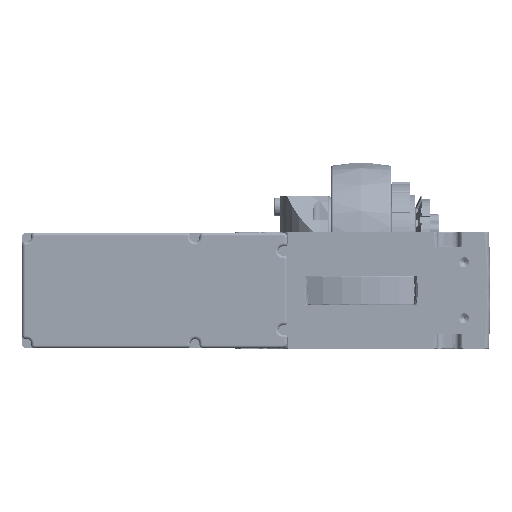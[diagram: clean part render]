
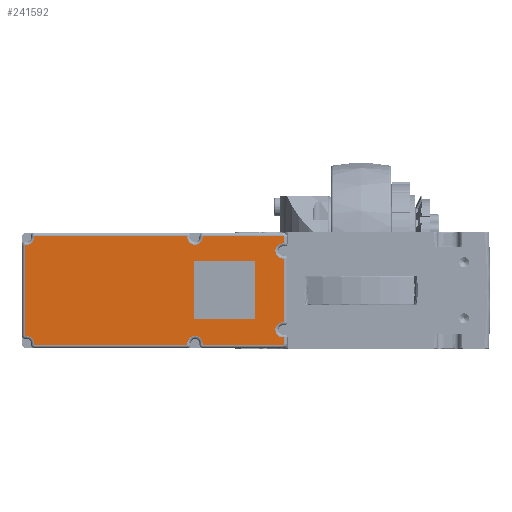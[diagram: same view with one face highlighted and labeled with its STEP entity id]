
A CAD part, front view. The second image highlights one B-rep face of the part: STEP entity #241592.
In plain terms, the highlighted planar face has unit normal (0, -1, 0) as drawn and (0, 0, 1) by its records, which use the part's own axes.
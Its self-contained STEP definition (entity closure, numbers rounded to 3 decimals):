
#11151=PLANE('',#264502);
#12166=FACE_BOUND('',#40531,.T.);
#25814=FACE_OUTER_BOUND('',#40530,.T.);
#40530=EDGE_LOOP('',(#212099,#212100,#212101,#212102,#212103,#212104,#212105,
#212106,#212107,#212108,#212109,#212110,#212111,#212112,#212113,#212114,
#212115,#212116,#212117,#212118,#212119,#212120,#212121,#212122,#212123,
#212124,#212125,#212126));
#40531=EDGE_LOOP('',(#212127,#212128,#212129,#212130));
#58939=CIRCLE('',#264503,5.);
#58940=CIRCLE('',#264504,1.);
#58941=CIRCLE('',#264505,5.);
#58942=CIRCLE('',#264506,5.);
#58943=CIRCLE('',#264507,1.);
#58944=CIRCLE('',#264508,5.);
#58945=CIRCLE('',#264509,5.);
#58946=CIRCLE('',#264510,5.);
#74270=LINE('',#637488,#89629);
#74274=LINE('',#637496,#89633);
#74277=LINE('',#637502,#89636);
#74280=LINE('',#637507,#89639);
#74282=LINE('',#637513,#89641);
#74283=LINE('',#637515,#89642);
#74284=LINE('',#637517,#89643);
#74285=LINE('',#637521,#89644);
#74286=LINE('',#637523,#89645);
#74287=LINE('',#637527,#89646);
#74288=LINE('',#637529,#89647);
#74289=LINE('',#637533,#89648);
#74290=LINE('',#637535,#89649);
#74291=LINE('',#637537,#89650);
#74292=LINE('',#637541,#89651);
#74293=LINE('',#637543,#89652);
#74294=LINE('',#637547,#89653);
#74295=LINE('',#637549,#89654);
#74296=LINE('',#637553,#89655);
#74297=LINE('',#637555,#89656);
#74298=LINE('',#637557,#89657);
#74299=LINE('',#637561,#89658);
#74300=LINE('',#637563,#89659);
#74301=LINE('',#637565,#89660);
#89629=VECTOR('',#324129,10.);
#89633=VECTOR('',#324135,10.);
#89636=VECTOR('',#324140,10.);
#89639=VECTOR('',#324145,10.);
#89641=VECTOR('',#324151,10.);
#89642=VECTOR('',#324152,10.);
#89643=VECTOR('',#324153,10.);
#89644=VECTOR('',#324156,10.);
#89645=VECTOR('',#324157,10.);
#89646=VECTOR('',#324160,10.);
#89647=VECTOR('',#324161,10.);
#89648=VECTOR('',#324164,10.);
#89649=VECTOR('',#324165,10.);
#89650=VECTOR('',#324166,10.);
#89651=VECTOR('',#324169,10.);
#89652=VECTOR('',#324170,10.);
#89653=VECTOR('',#324173,10.);
#89654=VECTOR('',#324174,10.);
#89655=VECTOR('',#324177,10.);
#89656=VECTOR('',#324178,10.);
#89657=VECTOR('',#324179,10.);
#89658=VECTOR('',#324182,10.);
#89659=VECTOR('',#324183,10.);
#89660=VECTOR('',#324184,10.);
#110649=VERTEX_POINT('',#637486);
#110650=VERTEX_POINT('',#637487);
#110653=VERTEX_POINT('',#637495);
#110655=VERTEX_POINT('',#637501);
#110657=VERTEX_POINT('',#637511);
#110658=VERTEX_POINT('',#637512);
#110659=VERTEX_POINT('',#637514);
#110660=VERTEX_POINT('',#637516);
#110661=VERTEX_POINT('',#637518);
#110662=VERTEX_POINT('',#637520);
#110663=VERTEX_POINT('',#637522);
#110664=VERTEX_POINT('',#637524);
#110665=VERTEX_POINT('',#637526);
#110666=VERTEX_POINT('',#637528);
#110667=VERTEX_POINT('',#637530);
#110668=VERTEX_POINT('',#637532);
#110669=VERTEX_POINT('',#637534);
#110670=VERTEX_POINT('',#637536);
#110671=VERTEX_POINT('',#637538);
#110672=VERTEX_POINT('',#637540);
#110673=VERTEX_POINT('',#637542);
#110674=VERTEX_POINT('',#637544);
#110675=VERTEX_POINT('',#637546);
#110676=VERTEX_POINT('',#637548);
#110677=VERTEX_POINT('',#637550);
#110678=VERTEX_POINT('',#637552);
#110679=VERTEX_POINT('',#637554);
#110680=VERTEX_POINT('',#637556);
#110681=VERTEX_POINT('',#637558);
#110682=VERTEX_POINT('',#637560);
#110683=VERTEX_POINT('',#637562);
#110684=VERTEX_POINT('',#637564);
#144478=EDGE_CURVE('',#110649,#110650,#74270,.T.);
#144482=EDGE_CURVE('',#110653,#110649,#74274,.T.);
#144485=EDGE_CURVE('',#110655,#110653,#74277,.T.);
#144488=EDGE_CURVE('',#110650,#110655,#74280,.T.);
#144490=EDGE_CURVE('',#110657,#110658,#74282,.T.);
#144491=EDGE_CURVE('',#110659,#110657,#74283,.T.);
#144492=EDGE_CURVE('',#110660,#110659,#74284,.T.);
#144493=EDGE_CURVE('',#110661,#110660,#58939,.T.);
#144494=EDGE_CURVE('',#110662,#110661,#74285,.T.);
#144495=EDGE_CURVE('',#110663,#110662,#74286,.T.);
#144496=EDGE_CURVE('',#110664,#110663,#58940,.T.);
#144497=EDGE_CURVE('',#110665,#110664,#74287,.T.);
#144498=EDGE_CURVE('',#110666,#110665,#74288,.T.);
#144499=EDGE_CURVE('',#110667,#110666,#58941,.T.);
#144500=EDGE_CURVE('',#110668,#110667,#74289,.T.);
#144501=EDGE_CURVE('',#110669,#110668,#74290,.T.);
#144502=EDGE_CURVE('',#110670,#110669,#74291,.T.);
#144503=EDGE_CURVE('',#110671,#110670,#58942,.T.);
#144504=EDGE_CURVE('',#110672,#110671,#74292,.T.);
#144505=EDGE_CURVE('',#110673,#110672,#74293,.T.);
#144506=EDGE_CURVE('',#110674,#110673,#58943,.T.);
#144507=EDGE_CURVE('',#110675,#110674,#74294,.T.);
#144508=EDGE_CURVE('',#110676,#110675,#74295,.T.);
#144509=EDGE_CURVE('',#110677,#110676,#58944,.T.);
#144510=EDGE_CURVE('',#110678,#110677,#74296,.T.);
#144511=EDGE_CURVE('',#110679,#110678,#74297,.T.);
#144512=EDGE_CURVE('',#110680,#110679,#74298,.T.);
#144513=EDGE_CURVE('',#110681,#110680,#58945,.T.);
#144514=EDGE_CURVE('',#110682,#110681,#74299,.T.);
#144515=EDGE_CURVE('',#110683,#110682,#74300,.T.);
#144516=EDGE_CURVE('',#110684,#110683,#74301,.T.);
#144517=EDGE_CURVE('',#110658,#110684,#58946,.T.);
#212099=ORIENTED_EDGE('',*,*,#144490,.F.);
#212100=ORIENTED_EDGE('',*,*,#144491,.F.);
#212101=ORIENTED_EDGE('',*,*,#144492,.F.);
#212102=ORIENTED_EDGE('',*,*,#144493,.F.);
#212103=ORIENTED_EDGE('',*,*,#144494,.F.);
#212104=ORIENTED_EDGE('',*,*,#144495,.F.);
#212105=ORIENTED_EDGE('',*,*,#144496,.F.);
#212106=ORIENTED_EDGE('',*,*,#144497,.F.);
#212107=ORIENTED_EDGE('',*,*,#144498,.F.);
#212108=ORIENTED_EDGE('',*,*,#144499,.F.);
#212109=ORIENTED_EDGE('',*,*,#144500,.F.);
#212110=ORIENTED_EDGE('',*,*,#144501,.F.);
#212111=ORIENTED_EDGE('',*,*,#144502,.F.);
#212112=ORIENTED_EDGE('',*,*,#144503,.F.);
#212113=ORIENTED_EDGE('',*,*,#144504,.F.);
#212114=ORIENTED_EDGE('',*,*,#144505,.F.);
#212115=ORIENTED_EDGE('',*,*,#144506,.F.);
#212116=ORIENTED_EDGE('',*,*,#144507,.F.);
#212117=ORIENTED_EDGE('',*,*,#144508,.F.);
#212118=ORIENTED_EDGE('',*,*,#144509,.F.);
#212119=ORIENTED_EDGE('',*,*,#144510,.F.);
#212120=ORIENTED_EDGE('',*,*,#144511,.F.);
#212121=ORIENTED_EDGE('',*,*,#144512,.F.);
#212122=ORIENTED_EDGE('',*,*,#144513,.F.);
#212123=ORIENTED_EDGE('',*,*,#144514,.F.);
#212124=ORIENTED_EDGE('',*,*,#144515,.F.);
#212125=ORIENTED_EDGE('',*,*,#144516,.F.);
#212126=ORIENTED_EDGE('',*,*,#144517,.F.);
#212127=ORIENTED_EDGE('',*,*,#144478,.T.);
#212128=ORIENTED_EDGE('',*,*,#144488,.T.);
#212129=ORIENTED_EDGE('',*,*,#144485,.T.);
#212130=ORIENTED_EDGE('',*,*,#144482,.T.);
#241592=ADVANCED_FACE('',(#25814,#12166),#11151,.T.);
#264502=AXIS2_PLACEMENT_3D('',#637510,#324149,#324150);
#264503=AXIS2_PLACEMENT_3D('',#637519,#324154,#324155);
#264504=AXIS2_PLACEMENT_3D('',#637525,#324158,#324159);
#264505=AXIS2_PLACEMENT_3D('',#637531,#324162,#324163);
#264506=AXIS2_PLACEMENT_3D('',#637539,#324167,#324168);
#264507=AXIS2_PLACEMENT_3D('',#637545,#324171,#324172);
#264508=AXIS2_PLACEMENT_3D('',#637551,#324175,#324176);
#264509=AXIS2_PLACEMENT_3D('',#637559,#324180,#324181);
#264510=AXIS2_PLACEMENT_3D('',#637566,#324185,#324186);
#324129=DIRECTION('',(-1.,0.,0.));
#324135=DIRECTION('',(0.,-1.,0.));
#324140=DIRECTION('',(1.,0.,0.));
#324145=DIRECTION('',(0.,1.,0.));
#324149=DIRECTION('center_axis',(0.,0.,1.));
#324150=DIRECTION('ref_axis',(1.,0.,0.));
#324151=DIRECTION('',(0.,1.,0.));
#324152=DIRECTION('',(-1.,0.,0.));
#324153=DIRECTION('',(0.,-1.,0.));
#324154=DIRECTION('center_axis',(0.,0.,1.));
#324155=DIRECTION('ref_axis',(0.,1.,0.));
#324156=DIRECTION('',(0.,1.,0.));
#324157=DIRECTION('',(-1.,0.,0.));
#324158=DIRECTION('center_axis',(0.,0.,-1.));
#324159=DIRECTION('ref_axis',(0.707,-0.707,0.));
#324160=DIRECTION('',(0.,-1.,0.));
#324161=DIRECTION('',(1.,0.,0.));
#324162=DIRECTION('center_axis',(0.,0.,1.));
#324163=DIRECTION('ref_axis',(-1.,0.,0.));
#324164=DIRECTION('',(-1.,0.,0.));
#324165=DIRECTION('',(0.,-1.,0.));
#324166=DIRECTION('',(1.,0.,0.));
#324167=DIRECTION('center_axis',(0.,0.,1.));
#324168=DIRECTION('ref_axis',(-1.,0.,0.));
#324169=DIRECTION('',(-1.,0.,0.));
#324170=DIRECTION('',(0.,-1.,0.));
#324171=DIRECTION('center_axis',(0.,0.,-1.));
#324172=DIRECTION('ref_axis',(0.707,0.707,0.));
#324173=DIRECTION('',(1.,0.,0.));
#324174=DIRECTION('',(0.,1.,0.));
#324175=DIRECTION('center_axis',(0.,0.,1.));
#324176=DIRECTION('ref_axis',(0.,-1.,0.));
#324177=DIRECTION('',(0.,-1.,0.));
#324178=DIRECTION('',(1.,0.,0.));
#324179=DIRECTION('',(0.,1.,0.));
#324180=DIRECTION('center_axis',(0.,0.,1.));
#324181=DIRECTION('ref_axis',(0.707,-0.707,0.));
#324182=DIRECTION('',(1.,0.,0.));
#324183=DIRECTION('',(0.,1.,0.));
#324184=DIRECTION('',(-1.,0.,0.));
#324185=DIRECTION('center_axis',(0.,0.,1.));
#324186=DIRECTION('ref_axis',(0.707,0.707,0.));
#637486=CARTESIAN_POINT('',(65.97,-19.146,13.));
#637487=CARTESIAN_POINT('',(25.97,-19.146,13.));
#637488=CARTESIAN_POINT('',(32.985,-19.146,13.));
#637495=CARTESIAN_POINT('',(65.97,19.146,13.));
#637496=CARTESIAN_POINT('',(65.97,9.573,13.));
#637501=CARTESIAN_POINT('',(25.97,19.146,13.));
#637502=CARTESIAN_POINT('',(12.985,19.146,13.));
#637507=CARTESIAN_POINT('',(25.97,-9.573,13.));
#637510=CARTESIAN_POINT('Origin',(0.,0.,13.));
#637511=CARTESIAN_POINT('',(-79.5,-36.,13.));
#637512=CARTESIAN_POINT('',(-79.5,-35.,13.));
#637513=CARTESIAN_POINT('',(-79.5,-17.5,13.));
#637514=CARTESIAN_POINT('',(21.5,-36.,13.));
#637515=CARTESIAN_POINT('',(-43.75,-36.,13.));
#637516=CARTESIAN_POINT('',(21.5,-35.,13.));
#637517=CARTESIAN_POINT('',(21.5,-19.,13.));
#637518=CARTESIAN_POINT('',(31.5,-35.,13.));
#637519=CARTESIAN_POINT('Origin',(26.5,-35.,13.));
#637520=CARTESIAN_POINT('',(31.5,-36.,13.));
#637521=CARTESIAN_POINT('',(31.5,-17.5,13.));
#637522=CARTESIAN_POINT('',(84.5,-36.,13.));
#637523=CARTESIAN_POINT('',(-43.75,-36.,13.));
#637524=CARTESIAN_POINT('',(85.5,-35.,13.));
#637525=CARTESIAN_POINT('Origin',(84.5,-35.,13.));
#637526=CARTESIAN_POINT('',(85.5,-31.,13.));
#637527=CARTESIAN_POINT('',(85.5,-19.,13.));
#637528=CARTESIAN_POINT('',(84.5,-31.,13.));
#637529=CARTESIAN_POINT('',(43.75,-31.,13.));
#637530=CARTESIAN_POINT('',(84.5,-21.,13.));
#637531=CARTESIAN_POINT('Origin',(84.5,-26.,13.));
#637532=CARTESIAN_POINT('',(85.5,-21.,13.));
#637533=CARTESIAN_POINT('',(42.25,-21.,13.));
#637534=CARTESIAN_POINT('',(85.5,21.,13.));
#637535=CARTESIAN_POINT('',(85.5,-19.,13.));
#637536=CARTESIAN_POINT('',(84.5,21.,13.));
#637537=CARTESIAN_POINT('',(43.75,21.,13.));
#637538=CARTESIAN_POINT('',(84.5,31.,13.));
#637539=CARTESIAN_POINT('Origin',(84.5,26.,13.));
#637540=CARTESIAN_POINT('',(85.5,31.,13.));
#637541=CARTESIAN_POINT('',(42.25,31.,13.));
#637542=CARTESIAN_POINT('',(85.5,35.,13.));
#637543=CARTESIAN_POINT('',(85.5,-19.,13.));
#637544=CARTESIAN_POINT('',(84.5,36.,13.));
#637545=CARTESIAN_POINT('Origin',(84.5,35.,13.));
#637546=CARTESIAN_POINT('',(31.5,36.,13.));
#637547=CARTESIAN_POINT('',(43.75,36.,13.));
#637548=CARTESIAN_POINT('',(31.5,35.,13.));
#637549=CARTESIAN_POINT('',(31.5,19.,13.));
#637550=CARTESIAN_POINT('',(21.5,35.,13.));
#637551=CARTESIAN_POINT('Origin',(26.5,35.,13.));
#637552=CARTESIAN_POINT('',(21.5,36.,13.));
#637553=CARTESIAN_POINT('',(21.5,17.5,13.));
#637554=CARTESIAN_POINT('',(-79.5,36.,13.));
#637555=CARTESIAN_POINT('',(43.75,36.,13.));
#637556=CARTESIAN_POINT('',(-79.5,35.,13.));
#637557=CARTESIAN_POINT('',(-79.5,19.,13.));
#637558=CARTESIAN_POINT('',(-84.5,30.,13.));
#637559=CARTESIAN_POINT('Origin',(-84.5,35.,13.));
#637560=CARTESIAN_POINT('',(-85.5,30.,13.));
#637561=CARTESIAN_POINT('',(-42.25,30.,13.));
#637562=CARTESIAN_POINT('',(-85.5,-30.,13.));
#637563=CARTESIAN_POINT('',(-85.5,19.,13.));
#637564=CARTESIAN_POINT('',(-84.5,-30.,13.));
#637565=CARTESIAN_POINT('',(-43.75,-30.,13.));
#637566=CARTESIAN_POINT('Origin',(-84.5,-35.,13.));
